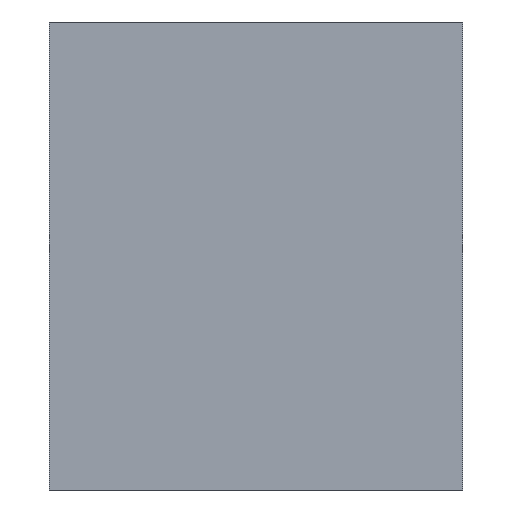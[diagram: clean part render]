
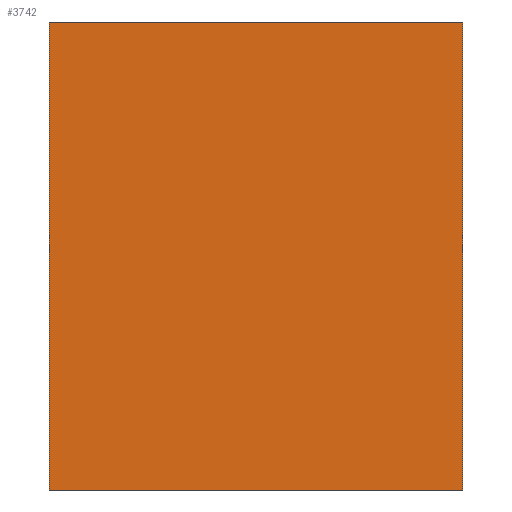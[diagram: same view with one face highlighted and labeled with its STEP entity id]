
A CAD part, left-side view. The second image highlights one B-rep face of the part: STEP entity #3742.
In plain terms, the highlighted planar face has unit normal (-1, 0, 0).
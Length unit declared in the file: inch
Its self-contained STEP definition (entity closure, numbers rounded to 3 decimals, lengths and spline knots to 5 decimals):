
#282 = CARTESIAN_POINT ( 'NONE',  ( -0.43315, 0.43512, 0.25 ) ) ;
#519 = VECTOR ( 'NONE', #4789, 39.37008 ) ;
#601 = ORIENTED_EDGE ( 'NONE', *, *, #4953, .F. ) ;
#897 = EDGE_CURVE ( 'NONE', #3346, #5058, #5313, .T. ) ;
#953 = CARTESIAN_POINT ( 'NONE',  ( -0.43315, 0.43512, 1.79795 ) ) ;
#1003 = DIRECTION ( 'NONE',  ( 0., 1., 0. ) ) ;
#1027 = PLANE ( 'NONE',  #5555 ) ;
#1033 = CARTESIAN_POINT ( 'NONE',  ( -0.43315, -0.43512, -0.73425 ) ) ;
#1087 = DIRECTION ( 'NONE',  ( -1., 0., 0. ) ) ;
#1363 = EDGE_CURVE ( 'NONE', #1755, #4995, #1493, .T. ) ;
#1407 = DIRECTION ( 'NONE',  ( 0., 1., 0. ) ) ;
#1443 = CARTESIAN_POINT ( 'NONE',  ( -0.43315, 0.245, -0.125 ) ) ;
#1493 = LINE ( 'NONE', #5275, #3395 ) ;
#1755 = VERTEX_POINT ( 'NONE', #3238 ) ;
#1944 = EDGE_LOOP ( 'NONE', ( #2794, #4932, #601, #3323 ) ) ;
#2048 = VECTOR ( 'NONE', #5132, 39.37008 ) ;
#2056 = LINE ( 'NONE', #4243, #2048 ) ;
#2324 = EDGE_CURVE ( 'NONE', #4995, #5058, #4815, .T. ) ;
#2794 = ORIENTED_EDGE ( 'NONE', *, *, #2324, .T. ) ;
#2924 = CARTESIAN_POINT ( 'NONE',  ( -0.43315, 0.43512, -0.73425 ) ) ;
#3215 = VECTOR ( 'NONE', #1003, 39.37008 ) ;
#3238 = CARTESIAN_POINT ( 'NONE',  ( -0.43315, -0.43512, 0.25 ) ) ;
#3323 = ORIENTED_EDGE ( 'NONE', *, *, #1363, .T. ) ;
#3346 = VERTEX_POINT ( 'NONE', #1033 ) ;
#3395 = VECTOR ( 'NONE', #1407, 39.37008 ) ;
#3742 = ADVANCED_FACE ( 'NONE', ( #5366 ), #1027, .T. ) ;
#4071 = CARTESIAN_POINT ( 'NONE',  ( -0.43315, -0.255, -0.73425 ) ) ;
#4243 = CARTESIAN_POINT ( 'NONE',  ( -0.43315, -0.43512, 0.25 ) ) ;
#4789 = DIRECTION ( 'NONE',  ( 0., 0., -1. ) ) ;
#4815 = LINE ( 'NONE', #953, #519 ) ;
#4932 = ORIENTED_EDGE ( 'NONE', *, *, #897, .F. ) ;
#4953 = EDGE_CURVE ( 'NONE', #1755, #3346, #2056, .T. ) ;
#4995 = VERTEX_POINT ( 'NONE', #282 ) ;
#5058 = VERTEX_POINT ( 'NONE', #2924 ) ;
#5132 = DIRECTION ( 'NONE',  ( 0., 0., -1. ) ) ;
#5275 = CARTESIAN_POINT ( 'NONE',  ( -0.43315, -0.255, 0.25 ) ) ;
#5312 = DIRECTION ( 'NONE',  ( 0., 0., 1. ) ) ;
#5313 = LINE ( 'NONE', #4071, #3215 ) ;
#5366 = FACE_OUTER_BOUND ( 'NONE', #1944, .T. ) ;
#5555 = AXIS2_PLACEMENT_3D ( 'NONE', #1443, #1087, #5312 ) ;
